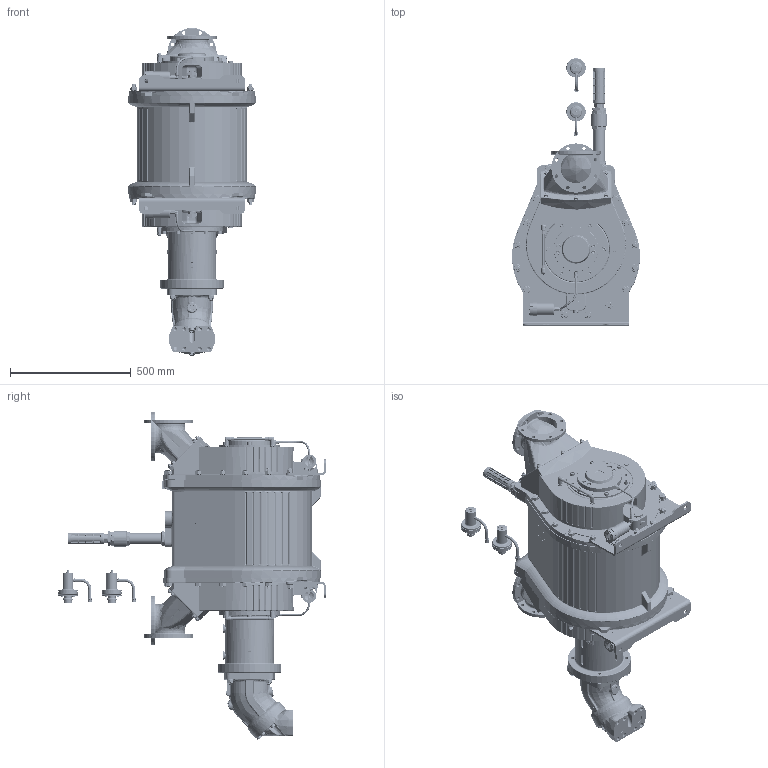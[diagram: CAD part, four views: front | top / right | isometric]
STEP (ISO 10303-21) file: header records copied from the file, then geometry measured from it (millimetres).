
FILE_DESCRIPTION(/* description */ (''),/* implementation_level */ '2;1');
FILE_NAME(/* name */ '1700163.stp',/* time_stamp */ '2026-04-22T13:46:02+02:00',/* author */ ('JJ'),/* organization */ (''),/* preprocessor_version */ 'ST-DEVELOPER v20',/* originating_system */ 'Autodesk Inventor 2025',/* authorisation */ '');
FILE_SCHEMA (('AUTOMOTIVE_DESIGN { 1 0 10303 214 3 1 1 }'));
Products named in the file (69): 1700163; 1659021; 1659049; 910100170; 910200008; 1634823; 1634808; 922000270; 910100021; 910100161; 944600276; 1659046; 910300074; 1659095; 1634824; 1634809; 922000269; 925000587; 925000590; 944600356; 944600355; 1659017; 1659069; 1634666; 1634667; 1634668; 1634130; 1634131; 1634670; 1634134; 910200105; 910100125; 910300428; 921000047; 922100045; 922100339; 1634669; 925000651; 910300012; 925000862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
Assembly tree (201 placements, depth 4):
  1700163
    1659017  x4
    1659069  x4
    1659021  x2
    910100021  x34
    910100161  x34
    910100170  x12
    910200008  x12
    1634823  x2
      1634808
      922000270
    1634826  x2
      1634811
      922000266
    1659049  x2
    944600276  x4
    1659046  x2
    910300074  x2
    1634824  x2
      1634809
      922000269
    1659095
    925000587
    925000590
    944600356
    944600355
    1634666  x2
      1634667
      1634668
      1634130
      1634131
      1634670
      1634134
      910200105
      910100125
      910300428
      921000047
      922100045
      922100339
      1634669
      925000651
      910300012
    925000862  x2
    927000134-TM2500  x2
    910300487  x2
    910100191  x2
    944600240  x2
    915000232  x2
    915000225  x2
      915000225-part1
      915000225-part2
    915000217
    1634773  x2
    915000215  x2
    915000217_1
    1659078_Simplify_body
    1659105
      1659110
      910100196  x4
      910100148  x4
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Bounding box: 528.82 x 1107.24 x 1357.57 mm (x, y, z)
Volume: 158571229.1 mm3; surface area: 6993315.7 mm2
Topology: 221 solids, 223 shells, 12462 faces, 32168 edges, 20682 vertices
Faces by surface type: plane 4556, bspline 3546, cylinder 2665, cone 1048, torus 457, sphere 190
Full cylindrical faces by diameter (mm): 1.5 x16, 3 x2, 3.2 x4, 3.3 x4, 3.5 x2, 4 x5, 4.134 x4, 4.917 x2, 4.92 x10, 5 x2, 5.3 x2, 6 x48, 6.1 x2, 6.4 x2, 6.5 x8, 8 x36, 8.376 x14, 8.4 x2, 8.5 x3, 8.57 x2, 9.2 x2, 9.7 x2, 9.8 x4, 10 x190, 10.106 x9, 10.5 x12, 11 x63, 11.18 x2, 11.3 x4, 11.445 x2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
Entity records: 647371 total; most frequent: CARTESIAN_POINT 468179, ORIENTED_EDGE 39344, DIRECTION 29677, EDGE_CURVE 19672, VERTEX_POINT 12613, AXIS2_PLACEMENT_3D 10934, EDGE_LOOP 8559, LINE 7809
